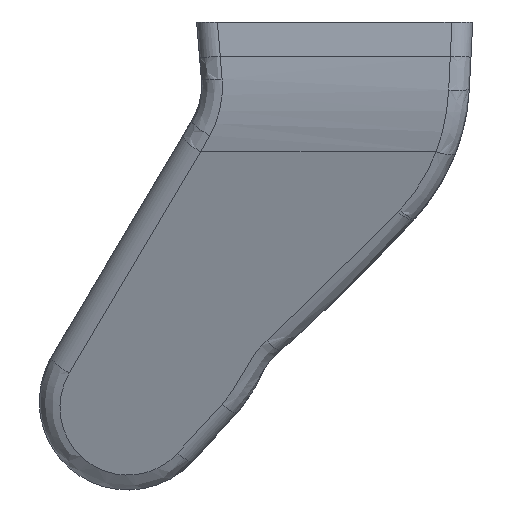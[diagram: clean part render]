
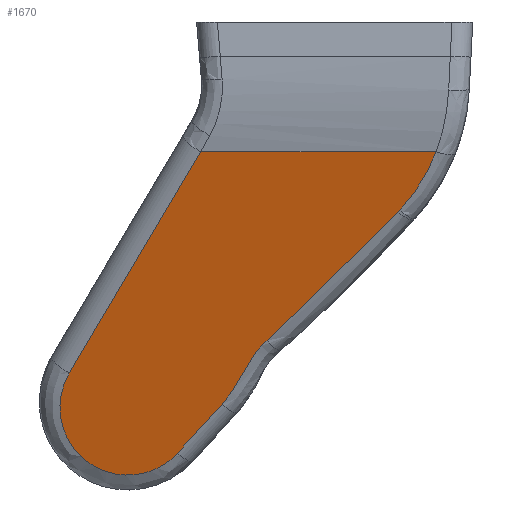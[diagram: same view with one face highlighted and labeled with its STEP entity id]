
A CAD part, left-side view. The second image highlights one B-rep face of the part: STEP entity #1670.
In plain terms, the highlighted planar face has unit normal (-0.961, 0, -0.277).
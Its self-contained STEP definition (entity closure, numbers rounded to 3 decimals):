
#1342 = VERTEX_POINT ( 'NONE', #23931 ) ;
#1350 = VERTEX_POINT ( 'NONE', #23939 ) ;
#1351 = VERTEX_POINT ( 'NONE', #23940 ) ;
#1354 = VERTEX_POINT ( 'NONE', #23943 ) ;
#1355 = VERTEX_POINT ( 'NONE', #23944 ) ;
#1356 = VERTEX_POINT ( 'NONE', #23945 ) ;
#1357 = VERTEX_POINT ( 'NONE', #23946 ) ;
#1358 = VERTEX_POINT ( 'NONE', #23947 ) ;
#1606 = EDGE_LOOP ( 'NONE', ( #2633, #2634, #2635, #2636, #2637, #2638, #2639, #2640 ) ) ;
#1670 = ADVANCED_FACE ( 'NONE', ( #5850 ), #5851, .T. ) ;
#2516 = EDGE_CURVE ( 'NONE', #1358, #1351, #20612, .T. ) ;
#2633 = ORIENTED_EDGE ( 'NONE', *, *, #4975, .F. ) ;
#2634 = ORIENTED_EDGE ( 'NONE', *, *, #4978, .T. ) ;
#2635 = ORIENTED_EDGE ( 'NONE', *, *, #4979, .T. ) ;
#2636 = ORIENTED_EDGE ( 'NONE', *, *, #4980, .T. ) ;
#2637 = ORIENTED_EDGE ( 'NONE', *, *, #4981, .T. ) ;
#2638 = ORIENTED_EDGE ( 'NONE', *, *, #4982, .T. ) ;
#2639 = ORIENTED_EDGE ( 'NONE', *, *, #4983, .T. ) ;
#2640 = ORIENTED_EDGE ( 'NONE', *, *, #2516, .T. ) ;
#4975 = EDGE_CURVE ( 'NONE', #1350, #1351, #9821, .T. ) ;
#4978 = EDGE_CURVE ( 'NONE', #1350, #1342, #9833, .T. ) ;
#4979 = EDGE_CURVE ( 'NONE', #1342, #1354, #20661, .T. ) ;
#4980 = EDGE_CURVE ( 'NONE', #1354, #1355, #9841, .T. ) ;
#4981 = EDGE_CURVE ( 'NONE', #1355, #1356, #15639, .T. ) ;
#4982 = EDGE_CURVE ( 'NONE', #1356, #1357, #20662, .T. ) ;
#4983 = EDGE_CURVE ( 'NONE', #1357, #1358, #9860, .T. ) ;
#5848 = CARTESIAN_POINT ( 'NONE',  ( -504.406, 355.505, 45.284 ) ) ;
#5850 = FACE_OUTER_BOUND ( 'NONE', #1606, .T. ) ;
#5851 = PLANE ( 'NONE',  #14963 ) ;
#5853 = DIRECTION ( 'NONE',  ( -0.961, 0., -0.277 ) ) ;
#5854 = DIRECTION ( 'NONE',  ( -0.277, 0., 0.961 ) ) ;
#8890 = VECTOR ( 'NONE', #9823, 1000. ) ;
#8892 = VECTOR ( 'NONE', #9835, 1000. ) ;
#8893 = VECTOR ( 'NONE', #9843, 1000. ) ;
#8894 = VECTOR ( 'NONE', #9863, 1000. ) ;
#9821 = LINE ( 'NONE', #9822, #8890 ) ;
#9822 = CARTESIAN_POINT ( 'NONE',  ( -504.406, 355.505, 45.284 ) ) ;
#9823 = DIRECTION ( 'NONE',  ( 0., -1., 0. ) ) ;
#9829 = CARTESIAN_POINT ( 'NONE',  ( -495.169, 351.131, 13.244 ) ) ;
#9833 = LINE ( 'NONE', #9834, #8892 ) ;
#9834 = CARTESIAN_POINT ( 'NONE',  ( -501.615, 337.852, 35.603 ) ) ;
#9835 = DIRECTION ( 'NONE',  ( 0.241, 0.496, -0.835 ) ) ;
#9836 = CARTESIAN_POINT ( 'NONE',  ( -494.055, 328.372, 9.381 ) ) ;
#9837 = CARTESIAN_POINT ( 'NONE',  ( -493.851, 329.021, 8.672 ) ) ;
#9838 = CARTESIAN_POINT ( 'NONE',  ( -491.159, 359.392, -0.666 ) ) ;
#9839 = CARTESIAN_POINT ( 'NONE',  ( -488.379, 346.403, -10.31 ) ) ;
#9840 = CARTESIAN_POINT ( 'NONE',  ( -491.818, 335.478, 1.621 ) ) ;
#9841 = LINE ( 'NONE', #9842, #8893 ) ;
#9842 = CARTESIAN_POINT ( 'NONE',  ( -496.162, 321.682, 16.687 ) ) ;
#9843 = DIRECTION ( 'NONE',  ( -0.208, -0.661, 0.721 ) ) ;
#9844 = CARTESIAN_POINT ( 'NONE',  ( -496.519, 322.505, 17.925 ) ) ;
#9845 = CARTESIAN_POINT ( 'NONE',  ( -494.278, 327.829, 10.154 ) ) ;
#9846 = CARTESIAN_POINT ( 'NONE',  ( -494.74, 326.83, 11.755 ) ) ;
#9847 = CARTESIAN_POINT ( 'NONE',  ( -494.979, 326.378, 12.584 ) ) ;
#9848 = CARTESIAN_POINT ( 'NONE',  ( -495.455, 325.462, 14.235 ) ) ;
#9849 = CARTESIAN_POINT ( 'NONE',  ( -495.692, 324.999, 15.057 ) ) ;
#9850 = CARTESIAN_POINT ( 'NONE',  ( -496.024, 324.177, 16.209 ) ) ;
#9851 = CARTESIAN_POINT ( 'NONE',  ( -496.13, 323.882, 16.578 ) ) ;
#9852 = CARTESIAN_POINT ( 'NONE',  ( -496.333, 323.233, 17.28 ) ) ;
#9853 = CARTESIAN_POINT ( 'NONE',  ( -496.429, 322.878, 17.614 ) ) ;
#9854 = CARTESIAN_POINT ( 'NONE',  ( -496.519, 322.505, 17.925 ) ) ;
#9857 = CARTESIAN_POINT ( 'NONE',  ( -497.799, 317.195, 22.366 ) ) ;
#9858 = CARTESIAN_POINT ( 'NONE',  ( -499.757, 310.261, 29.158 ) ) ;
#9859 = CARTESIAN_POINT ( 'NONE',  ( -501.889, 303.489, 36.553 ) ) ;
#9860 = LINE ( 'NONE', #9862, #8894 ) ;
#9862 = CARTESIAN_POINT ( 'NONE',  ( -496.162, 321.682, 16.687 ) ) ;
#9863 = DIRECTION ( 'NONE',  ( -0.208, -0.661, 0.721 ) ) ;
#14963 = AXIS2_PLACEMENT_3D ( 'NONE', #5848, #5853, #5854 ) ;
#15639 = B_SPLINE_CURVE_WITH_KNOTS ( 'NONE', 3,
 ( #9837, #9836, #9845, #9846, #9847, #9848, #9849, #9850, #9851, #9852, #9853, #9854 ),
 .UNSPECIFIED., .F., .F.,
 ( 4, 2, 2, 2, 2, 4 ),
 ( 0., 0.003, 0.006, 0.009, 0.01, 0.012 ),
 .UNSPECIFIED. ) ;
#20612 =( BOUNDED_CURVE ( )  B_SPLINE_CURVE ( 3, ( #22035, #22044, #22045, #22046 ),
 .UNSPECIFIED., .F., .T. ) 
 B_SPLINE_CURVE_WITH_KNOTS ( ( 4, 4 ),
 ( 3.971, 4.342 ),
 .UNSPECIFIED. ) 
 CURVE ( )  GEOMETRIC_REPRESENTATION_ITEM ( )  RATIONAL_B_SPLINE_CURVE ( ( 1., 0.989, 0.989, 1. ) ) 
 REPRESENTATION_ITEM ( '' )  );
#20661 =( BOUNDED_CURVE ( )  B_SPLINE_CURVE ( 3, ( #9829, #9838, #9839, #9840 ),
 .UNSPECIFIED., .F., .T. ) 
 B_SPLINE_CURVE_WITH_KNOTS ( ( 4, 4 ),
 ( 1.035, 3.971 ),
 .UNSPECIFIED. ) 
 CURVE ( )  GEOMETRIC_REPRESENTATION_ITEM ( )  RATIONAL_B_SPLINE_CURVE ( ( 1., 0.402, 0.402, 1. ) ) 
 REPRESENTATION_ITEM ( '' )  );
#20662 =( BOUNDED_CURVE ( )  B_SPLINE_CURVE ( 3, ( #9844, #9857, #9858, #9859 ),
 .UNSPECIFIED., .F., .T. ) 
 B_SPLINE_CURVE_WITH_KNOTS ( ( 4, 4 ),
 ( 3.876, 4.902 ),
 .UNSPECIFIED. ) 
 CURVE ( )  GEOMETRIC_REPRESENTATION_ITEM ( )  RATIONAL_B_SPLINE_CURVE ( ( 1., 0.914, 0.914, 1. ) ) 
 REPRESENTATION_ITEM ( '' )  );
#22035 = CARTESIAN_POINT ( 'NONE',  ( -501.964, 303.249, 36.815 ) ) ;
#22044 = CARTESIAN_POINT ( 'NONE',  ( -502.679, 300.979, 39.294 ) ) ;
#22045 = CARTESIAN_POINT ( 'NONE',  ( -503.502, 299.205, 42.15 ) ) ;
#22046 = CARTESIAN_POINT ( 'NONE',  ( -504.406, 297.99, 45.284 ) ) ;
#23931 = CARTESIAN_POINT ( 'NONE',  ( -495.169, 351.131, 13.244 ) ) ;
#23939 = CARTESIAN_POINT ( 'NONE',  ( -504.406, 332.102, 45.284 ) ) ;
#23940 = CARTESIAN_POINT ( 'NONE',  ( -504.406, 297.99, 45.284 ) ) ;
#23943 = CARTESIAN_POINT ( 'NONE',  ( -491.818, 335.478, 1.621 ) ) ;
#23944 = CARTESIAN_POINT ( 'NONE',  ( -493.851, 329.021, 8.672 ) ) ;
#23945 = CARTESIAN_POINT ( 'NONE',  ( -496.519, 322.505, 17.925 ) ) ;
#23946 = CARTESIAN_POINT ( 'NONE',  ( -501.889, 303.489, 36.553 ) ) ;
#23947 = CARTESIAN_POINT ( 'NONE',  ( -501.964, 303.249, 36.815 ) ) ;
